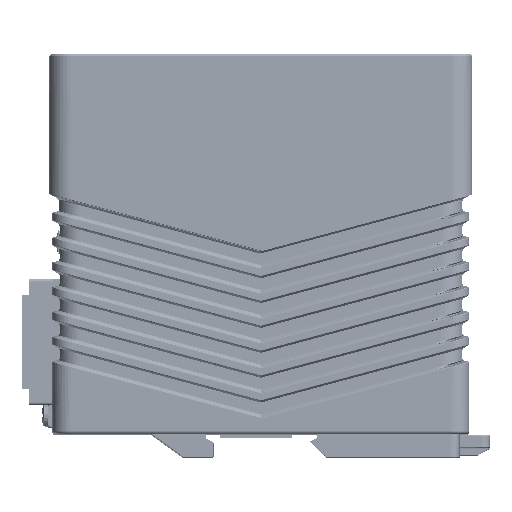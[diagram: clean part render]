
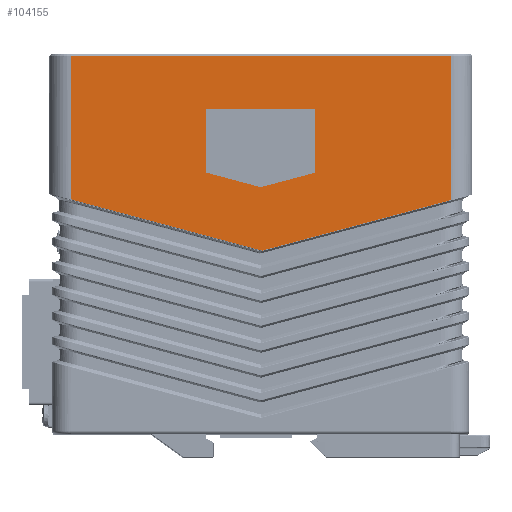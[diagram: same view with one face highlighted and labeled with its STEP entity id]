
A CAD part, left-side view. The second image highlights one B-rep face of the part: STEP entity #104155.
In plain terms, the highlighted planar face has unit normal (-1, 0, 0).
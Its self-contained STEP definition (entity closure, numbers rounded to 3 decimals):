
#4448 = CARTESIAN_POINT ( 'NONE',  ( -28.535, -0.483, -62.911 ) ) ;
#5002 = DIRECTION ( 'NONE',  ( 0., -0.966, -0.259 ) ) ;
#12783 = LINE ( 'NONE', #52161, #394934 ) ;
#52161 = CARTESIAN_POINT ( 'NONE',  ( -28.535, -61.07, 0.25 ) ) ;
#57639 = LINE ( 'NONE', #185894, #113898 ) ;
#58754 = DIRECTION ( 'NONE',  ( 0., 0., 1. ) ) ;
#58954 = ORIENTED_EDGE ( 'NONE', *, *, #184482, .F. ) ;
#62983 = EDGE_LOOP ( 'NONE', ( #137426, #129240, #409029, #191098, #392939 ) ) ;
#77182 = VERTEX_POINT ( 'NONE', #296243 ) ;
#94060 = CARTESIAN_POINT ( 'NONE',  ( -28.535, 61.074, 0.25 ) ) ;
#102173 = DIRECTION ( 'NONE',  ( 0., 1., 0. ) ) ;
#104155 = ADVANCED_FACE ( 'NONE', ( #237305, #234736 ), #395136, .F. ) ;
#113898 = VECTOR ( 'NONE', #136373, 1000. ) ;
#126732 = CARTESIAN_POINT ( 'NONE',  ( -28.535, 17.5, -17.5 ) ) ;
#129240 = ORIENTED_EDGE ( 'NONE', *, *, #376546, .F. ) ;
#136373 = DIRECTION ( 'NONE',  ( 0., -0.966, 0.259 ) ) ;
#137426 = ORIENTED_EDGE ( 'NONE', *, *, #286432, .F. ) ;
#143752 = CARTESIAN_POINT ( 'NONE',  ( -28.535, 17.5, -37.829 ) ) ;
#144842 = EDGE_CURVE ( 'NONE', #424526, #482759, #12783, .T. ) ;
#145222 = ORIENTED_EDGE ( 'NONE', *, *, #425263, .T. ) ;
#154463 = VECTOR ( 'NONE', #102173, 1000. ) ;
#155058 = VERTEX_POINT ( 'NONE', #195404 ) ;
#160087 = CARTESIAN_POINT ( 'NONE',  ( -28.535, 17.5, -37.829 ) ) ;
#164989 = LINE ( 'NONE', #367246, #206491 ) ;
#171468 = VERTEX_POINT ( 'NONE', #182524 ) ;
#172640 = DIRECTION ( 'NONE',  ( 0., 0., -1. ) ) ;
#173818 = VERTEX_POINT ( 'NONE', #126732 ) ;
#180492 = CARTESIAN_POINT ( 'NONE',  ( -28.535, 61.074, 0.25 ) ) ;
#182524 = CARTESIAN_POINT ( 'NONE',  ( -28.535, -17.5, -37.829 ) ) ;
#183388 = LINE ( 'NONE', #514223, #154463 ) ;
#184482 = EDGE_CURVE ( 'NONE', #482759, #225434, #164989, .T. ) ;
#185894 = CARTESIAN_POINT ( 'NONE',  ( -28.535, 0., -42.518 ) ) ;
#191098 = ORIENTED_EDGE ( 'NONE', *, *, #339352, .F. ) ;
#191307 = AXIS2_PLACEMENT_3D ( 'NONE', #180492, #316223, #461627 ) ;
#195404 = CARTESIAN_POINT ( 'NONE',  ( -28.535, 0., -42.518 ) ) ;
#199324 = DIRECTION ( 'NONE',  ( 0., -0.966, -0.259 ) ) ;
#206254 = ORIENTED_EDGE ( 'NONE', *, *, #247912, .T. ) ;
#206491 = VECTOR ( 'NONE', #320037, 1000. ) ;
#209367 = LINE ( 'NONE', #372336, #414954 ) ;
#214189 = VECTOR ( 'NONE', #274694, 1000. ) ;
#225434 = VERTEX_POINT ( 'NONE', #4448 ) ;
#234736 = FACE_OUTER_BOUND ( 'NONE', #481428, .T. ) ;
#237305 = FACE_BOUND ( 'NONE', #62983, .T. ) ;
#247912 = EDGE_CURVE ( 'NONE', #502369, #225434, #209367, .T. ) ;
#254058 = DIRECTION ( 'NONE',  ( 0., 0., -1. ) ) ;
#274694 = DIRECTION ( 'NONE',  ( 0., 1., 0. ) ) ;
#286432 = EDGE_CURVE ( 'NONE', #77182, #173818, #183388, .T. ) ;
#294663 = CARTESIAN_POINT ( 'NONE',  ( -28.535, -61.07, -0.354 ) ) ;
#296243 = CARTESIAN_POINT ( 'NONE',  ( -28.535, -17.5, -17.5 ) ) ;
#316223 = DIRECTION ( 'NONE',  ( 1., 0., 0. ) ) ;
#317629 = LINE ( 'NONE', #160087, #461133 ) ;
#320037 = DIRECTION ( 'NONE',  ( 0., 0.966, -0.259 ) ) ;
#333648 = ORIENTED_EDGE ( 'NONE', *, *, #431433, .T. ) ;
#334306 = CARTESIAN_POINT ( 'NONE',  ( -28.535, -17.5, -37.829 ) ) ;
#337276 = VERTEX_POINT ( 'NONE', #143752 ) ;
#339352 = EDGE_CURVE ( 'NONE', #337276, #155058, #317629, .T. ) ;
#356152 = LINE ( 'NONE', #474390, #214189 ) ;
#357780 = CARTESIAN_POINT ( 'NONE',  ( -28.535, 17.5, -17.5 ) ) ;
#362957 = DIRECTION ( 'NONE',  ( 0., 0., -1. ) ) ;
#367246 = CARTESIAN_POINT ( 'NONE',  ( -28.535, 41.16, -74.069 ) ) ;
#368004 = VECTOR ( 'NONE', #58754, 1000. ) ;
#372336 = CARTESIAN_POINT ( 'NONE',  ( -28.535, -0.065, -62.799 ) ) ;
#372845 = EDGE_CURVE ( 'NONE', #155058, #171468, #57639, .T. ) ;
#376546 = EDGE_CURVE ( 'NONE', #171468, #77182, #460356, .T. ) ;
#386887 = CARTESIAN_POINT ( 'NONE',  ( -28.535, 61.074, -46.416 ) ) ;
#391685 = VECTOR ( 'NONE', #254058, 1000. ) ;
#392939 = ORIENTED_EDGE ( 'NONE', *, *, #504687, .F. ) ;
#394934 = VECTOR ( 'NONE', #172640, 1000. ) ;
#395136 = PLANE ( 'NONE',  #191307 ) ;
#409029 = ORIENTED_EDGE ( 'NONE', *, *, #372845, .F. ) ;
#411885 = LINE ( 'NONE', #94060, #391685 ) ;
#414954 = VECTOR ( 'NONE', #5002, 1000. ) ;
#424526 = VERTEX_POINT ( 'NONE', #294663 ) ;
#424694 = CARTESIAN_POINT ( 'NONE',  ( -28.535, -61.07, -46.676 ) ) ;
#425263 = EDGE_CURVE ( 'NONE', #424526, #485927, #356152, .T. ) ;
#431433 = EDGE_CURVE ( 'NONE', #485927, #502369, #411885, .T. ) ;
#434043 = LINE ( 'NONE', #357780, #489464 ) ;
#460356 = LINE ( 'NONE', #334306, #368004 ) ;
#461133 = VECTOR ( 'NONE', #199324, 1000. ) ;
#461627 = DIRECTION ( 'NONE',  ( 0., 1., 0. ) ) ;
#474390 = CARTESIAN_POINT ( 'NONE',  ( -28.535, 61.074, -0.354 ) ) ;
#481428 = EDGE_LOOP ( 'NONE', ( #333648, #206254, #58954, #493110, #145222 ) ) ;
#482759 = VERTEX_POINT ( 'NONE', #424694 ) ;
#485927 = VERTEX_POINT ( 'NONE', #502232 ) ;
#489464 = VECTOR ( 'NONE', #362957, 1000. ) ;
#493110 = ORIENTED_EDGE ( 'NONE', *, *, #144842, .F. ) ;
#502232 = CARTESIAN_POINT ( 'NONE',  ( -28.535, 61.074, -0.354 ) ) ;
#502369 = VERTEX_POINT ( 'NONE', #386887 ) ;
#504687 = EDGE_CURVE ( 'NONE', #173818, #337276, #434043, .T. ) ;
#514223 = CARTESIAN_POINT ( 'NONE',  ( -28.535, -17.5, -17.5 ) ) ;
